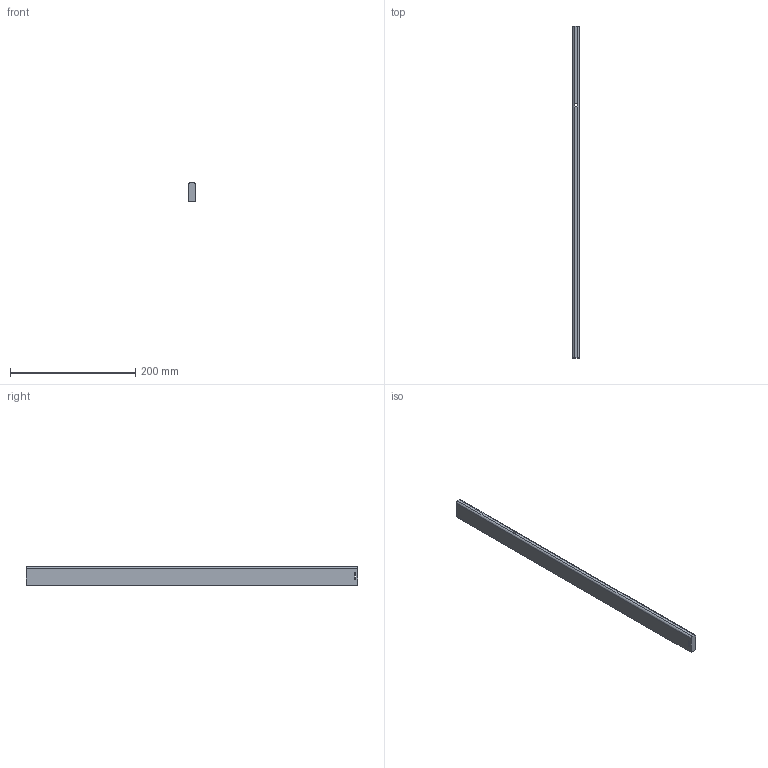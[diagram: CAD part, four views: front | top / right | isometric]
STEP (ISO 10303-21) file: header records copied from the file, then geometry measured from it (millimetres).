
FILE_DESCRIPTION (( 'STEP AP214' ), '1' );
FILE_NAME ('_Seitenreling_S760609500_RL529,5.step', '2010-09-06T14:51:35', ( 'grass' ), ( '' ), 'SwSTEP 2.0', 'SolidWorks 2010', '' );
FILE_SCHEMA (( 'AUTOMOTIVE_DESIGN' ));
Length unit declared in the file: millimetre
Products named in the file (1): _Seitenreling_S760609500_RL529,5
Bounding box: 10.5 x 529.5 x 30 mm (x, y, z)
Volume: 163361.1 mm3; surface area: 43001.4 mm2
Topology: 1 solids, 1 shells, 23 faces, 56 edges, 36 vertices
Faces by surface type: plane 15, cylinder 8
Entity records: 716 total; most frequent: DIRECTION 120, CARTESIAN_POINT 116, ORIENTED_EDGE 112, EDGE_CURVE 56, LINE 40, VECTOR 40, AXIS2_PLACEMENT_3D 40, VERTEX_POINT 36
